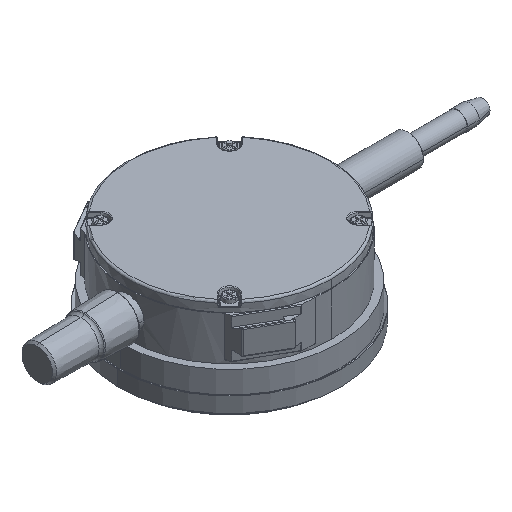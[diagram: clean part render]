
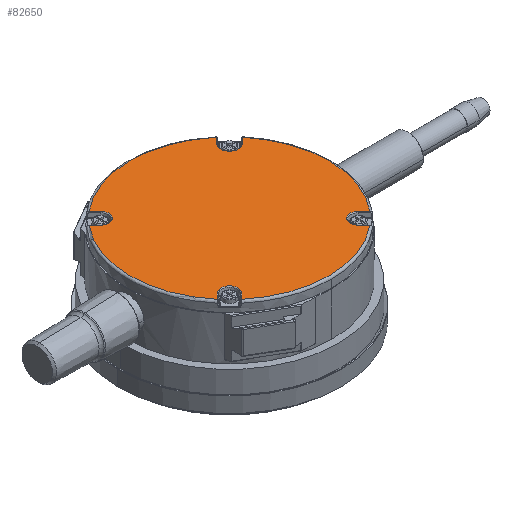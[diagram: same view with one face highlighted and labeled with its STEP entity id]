
A CAD part, isometric view. The second image highlights one B-rep face of the part: STEP entity #82650.
In plain terms, the highlighted planar face has unit normal (0, 0, 1).
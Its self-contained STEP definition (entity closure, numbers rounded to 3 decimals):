
#17600=CARTESIAN_POINT('',(-14.869,-17.94,2.1));
#17610=VERTEX_POINT('',#17600);
#17640=CARTESIAN_POINT('',(0.,-3.071,2.1));
#17650=DIRECTION('',(-0.707,-0.707,0.));
#17660=VECTOR('',#17650,1.);
#17670=LINE('',#17640,#17660);
#17680=CARTESIAN_POINT('',(-16.288,-19.359,2.1));
#17690=VERTEX_POINT('',#17680);
#17700=EDGE_CURVE('',#17610,#17690,#17670,.T.);
#58260=CARTESIAN_POINT('',(14.728,-18.082,2.1));
#58270=VERTEX_POINT('',#58260);
#58460=CARTESIAN_POINT('',(16.134,-19.488,2.1));
#58470=VERTEX_POINT('',#58460);
#58500=CARTESIAN_POINT('',(0.,-3.354,2.1));
#58510=DIRECTION('',(-0.707,0.707,0.));
#58520=VECTOR('',#58510,1.);
#58530=LINE('',#58500,#58520);
#58540=EDGE_CURVE('',#58470,#58270,#58530,.T.);
#59750=CARTESIAN_POINT('',(-16.288,19.359,2.1));
#59760=VERTEX_POINT('',#59750);
#61180=CARTESIAN_POINT('',(16.288,19.359,2.1));
#61190=VERTEX_POINT('',#61180);
#65420=CARTESIAN_POINT('',(14.869,17.94,2.1));
#65430=VERTEX_POINT('',#65420);
#65520=CARTESIAN_POINT('',(17.94,14.869,2.1));
#65530=VERTEX_POINT('',#65520);
#65560=CARTESIAN_POINT('',(16.405,16.405,2.1));
#65570=DIRECTION('',(0.,0.,1.));
#65580=DIRECTION('',(-1.,0.,0.));
#65590=AXIS2_PLACEMENT_3D('',#65560,#65570,#65580);
#65600=CIRCLE('',#65590,2.172);
#65610=EDGE_CURVE('',#65430,#65530,#65600,.T.);
#70570=CARTESIAN_POINT('',(0.,3.071,2.1));
#70580=DIRECTION('',(0.707,0.707,0.));
#70590=VECTOR('',#70580,1.);
#70600=LINE('',#70570,#70590);
#70610=EDGE_CURVE('',#65430,#61190,#70600,.T.);
#70800=CARTESIAN_POINT('',(19.488,-16.134,2.1));
#70810=VERTEX_POINT('',#70800);
#70900=CARTESIAN_POINT('',(18.082,-14.728,2.1));
#70910=VERTEX_POINT('',#70900);
#70940=CARTESIAN_POINT('',(0.,3.354,2.1));
#70950=DIRECTION('',(0.707,-0.707,0.));
#70960=VECTOR('',#70950,1.);
#70970=LINE('',#70940,#70960);
#70980=EDGE_CURVE('',#70910,#70810,#70970,.T.);
#71180=CARTESIAN_POINT('',(-19.359,-16.288,2.1));
#71190=VERTEX_POINT('',#71180);
#71220=CARTESIAN_POINT('',(0.,3.071,2.1));
#71230=DIRECTION('',(0.707,0.707,0.));
#71240=VECTOR('',#71230,1.);
#71250=LINE('',#71220,#71240);
#71260=CARTESIAN_POINT('',(-17.94,-14.869,2.1));
#71270=VERTEX_POINT('',#71260);
#71280=EDGE_CURVE('',#71190,#71270,#71250,.T.);
#73100=CARTESIAN_POINT('',(0.,0.,2.1));
#73110=DIRECTION('',(0.,0.,-1.));
#73120=DIRECTION('',(-1.,0.,0.));
#73130=AXIS2_PLACEMENT_3D('',#73100,#73110,#73120);
#73140=CIRCLE('',#73130,25.3);
#73150=CARTESIAN_POINT('',(19.359,16.288,2.1));
#73160=VERTEX_POINT('',#73150);
#73170=EDGE_CURVE('',#73160,#70810,#73140,.T.);
#78540=CARTESIAN_POINT('',(-19.359,16.288,2.1));
#78550=VERTEX_POINT('',#78540);
#81870=CARTESIAN_POINT('',(0.,0.,2.1));
#81880=DIRECTION('',(0.,0.,-1.));
#81890=DIRECTION('',(1.,0.,0.));
#81900=AXIS2_PLACEMENT_3D('',#81870,#81880,#81890);
#81910=PLANE('',#81900);
#81920=CARTESIAN_POINT('',(0.,0.,2.1));
#81930=DIRECTION('',(0.,0.,-1.));
#81940=DIRECTION('',(-1.,0.,0.));
#81950=AXIS2_PLACEMENT_3D('',#81920,#81930,#81940);
#81960=CIRCLE('',#81950,25.3);
#81970=EDGE_CURVE('',#58470,#17690,#81960,.T.);
#81980=ORIENTED_EDGE('',*,*,#81970,.F.);
#81990=ORIENTED_EDGE('',*,*,#17700,.T.);
#82000=CARTESIAN_POINT('',(-16.405,-16.405,2.1));
#82010=DIRECTION('',(0.,0.,1.));
#82020=DIRECTION('',(-1.,0.,0.));
#82030=AXIS2_PLACEMENT_3D('',#82000,#82010,#82020);
#82040=CIRCLE('',#82030,2.172);
#82050=EDGE_CURVE('',#17610,#71270,#82040,.T.);
#82060=ORIENTED_EDGE('',*,*,#82050,.F.);
#82070=ORIENTED_EDGE('',*,*,#71280,.T.);
#82080=CARTESIAN_POINT('',(0.,0.,2.1));
#82090=DIRECTION('',(0.,0.,-1.));
#82100=DIRECTION('',(-1.,0.,0.));
#82110=AXIS2_PLACEMENT_3D('',#82080,#82090,#82100);
#82120=CIRCLE('',#82110,25.3);
#82130=EDGE_CURVE('',#71190,#78550,#82120,.T.);
#82140=ORIENTED_EDGE('',*,*,#82130,.F.);
#82150=CARTESIAN_POINT('',(0.,-3.071,2.1));
#82160=DIRECTION('',(-0.707,0.707,0.));
#82170=VECTOR('',#82160,1.);
#82180=LINE('',#82150,#82170);
#82190=CARTESIAN_POINT('',(-17.94,14.869,2.1));
#82200=VERTEX_POINT('',#82190);
#82210=EDGE_CURVE('',#82200,#78550,#82180,.T.);
#82220=ORIENTED_EDGE('',*,*,#82210,.T.);
#82230=CARTESIAN_POINT('',(-16.405,16.405,2.1));
#82240=DIRECTION('',(0.,0.,1.));
#82250=DIRECTION('',(-1.,0.,0.));
#82260=AXIS2_PLACEMENT_3D('',#82230,#82240,#82250);
#82270=CIRCLE('',#82260,2.172);
#82280=CARTESIAN_POINT('',(-14.869,17.94,2.1));
#82290=VERTEX_POINT('',#82280);
#82300=EDGE_CURVE('',#82200,#82290,#82270,.T.);
#82310=ORIENTED_EDGE('',*,*,#82300,.F.);
#82320=CARTESIAN_POINT('',(0.,3.071,2.1));
#82330=DIRECTION('',(0.707,-0.707,0.));
#82340=VECTOR('',#82330,1.);
#82350=LINE('',#82320,#82340);
#82360=EDGE_CURVE('',#59760,#82290,#82350,.T.);
#82370=ORIENTED_EDGE('',*,*,#82360,.T.);
#82380=CARTESIAN_POINT('',(0.,0.,2.1));
#82390=DIRECTION('',(0.,0.,-1.));
#82400=DIRECTION('',(-1.,0.,0.));
#82410=AXIS2_PLACEMENT_3D('',#82380,#82390,#82400);
#82420=CIRCLE('',#82410,25.3);
#82430=EDGE_CURVE('',#59760,#61190,#82420,.T.);
#82440=ORIENTED_EDGE('',*,*,#82430,.F.);
#82450=ORIENTED_EDGE('',*,*,#70610,.T.);
#82460=ORIENTED_EDGE('',*,*,#65610,.F.);
#82470=CARTESIAN_POINT('',(0.,-3.071,2.1));
#82480=DIRECTION('',(-0.707,-0.707,0.));
#82490=VECTOR('',#82480,1.);
#82500=LINE('',#82470,#82490);
#82510=EDGE_CURVE('',#73160,#65530,#82500,.T.);
#82520=ORIENTED_EDGE('',*,*,#82510,.T.);
#82530=ORIENTED_EDGE('',*,*,#73170,.F.);
#82540=ORIENTED_EDGE('',*,*,#70980,.T.);
#82550=CARTESIAN_POINT('',(16.405,-16.405,2.1));
#82560=DIRECTION('',(0.,0.,1.));
#82570=DIRECTION('',(-1.,0.,0.));
#82580=AXIS2_PLACEMENT_3D('',#82550,#82560,#82570);
#82590=CIRCLE('',#82580,2.372);
#82600=EDGE_CURVE('',#70910,#58270,#82590,.T.);
#82610=ORIENTED_EDGE('',*,*,#82600,.F.);
#82620=ORIENTED_EDGE('',*,*,#58540,.T.);
#82630=EDGE_LOOP('',(#82620,#82610,#82540,#82530,#82520,#82460,#82450,
#82440,#82370,#82310,#82220,#82140,#82070,#82060,#81990,#81980));
#82640=FACE_OUTER_BOUND('',#82630,.T.);
#82650=ADVANCED_FACE('',(#82640),#81910,.F.);
